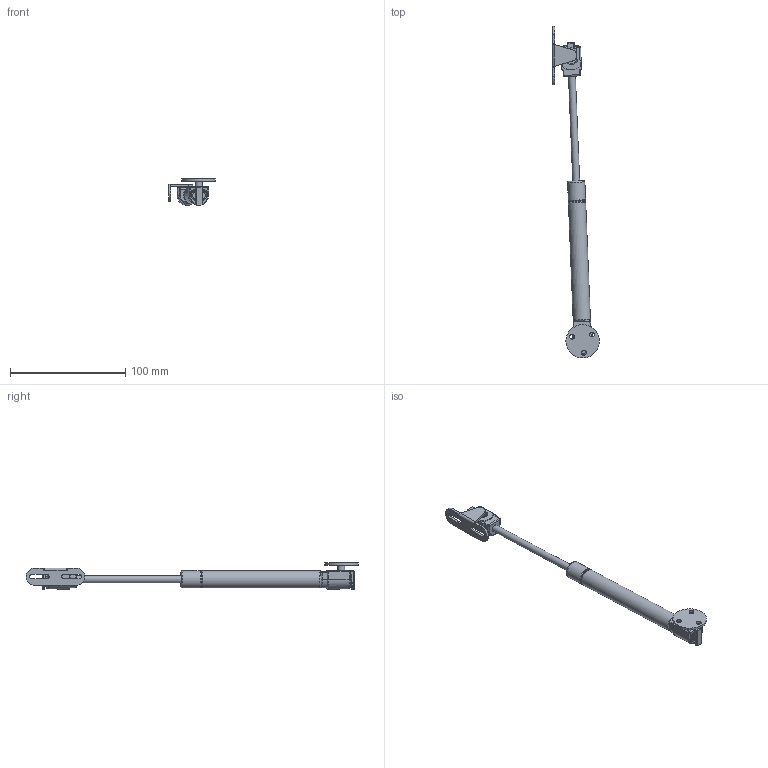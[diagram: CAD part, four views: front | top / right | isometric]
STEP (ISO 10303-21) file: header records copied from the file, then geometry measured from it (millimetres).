
FILE_DESCRIPTION(/* description */ (''),/* implementation_level */ '2;1');
FILE_NAME(/* name */ 'D:\$Workingspace\Designs\Katalog\Cadsoft\Akcesoria\PD-ECGDL-_\PD-ECGDL-_.stp',/* time_stamp */ '2019-02-28T13:11:54+01:00',/* author */ ('tomaszw'),/* organization */ (''),/* preprocessor_version */ 'ST-DEVELOPER v17',/* originating_system */ 'Autodesk Inventor 2019',/* authorisation */ '');
FILE_SCHEMA (('AUTOMOTIVE_DESIGN { 1 0 10303 214 3 1 1 }'));
Length unit declared in the file: millimetre
Products named in the file (6): PD-ECGDL-060_L; PD-ECGDL-_2; PD-ECGDL-_3; PD-ECGDL-_4; PD-ECGDL-_1; Moc1_2
Assembly tree (6 placements, depth 2):
  PD-ECGDL-060_L
    PD-ECGDL-_1  x2
    PD-ECGDL-_2
    PD-ECGDL-_3
    PD-ECGDL-_4
    Moc1_2
Bounding box: 40.47 x 287.76 x 22.8 mm (x, y, z)
Volume: 34332.4 mm3; surface area: 20860.9 mm2
Topology: 8 solids, 8 shells, 245 faces, 618 edges, 387 vertices
Faces by surface type: plane 125, cylinder 80, torus 24, sphere 8, bspline 6, cone 2
Full cylindrical faces by diameter (mm): 1.2 x8, 4.3 x3, 6 x7, 14 x1, 15 x2, 29 x1
Entity records: 5057 total; most frequent: CARTESIAN_POINT 1023, DIRECTION 846, ORIENTED_EDGE 754, EDGE_CURVE 377, AXIS2_PLACEMENT_3D 322, VERTEX_POINT 243, LINE 202, VECTOR 202
